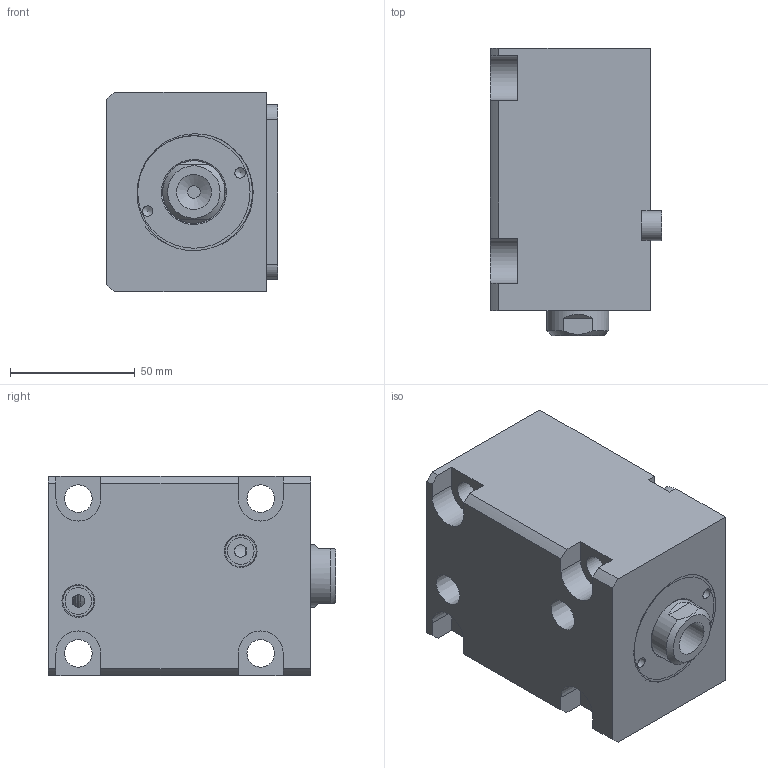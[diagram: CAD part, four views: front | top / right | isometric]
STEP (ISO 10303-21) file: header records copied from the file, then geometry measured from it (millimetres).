
FILE_DESCRIPTION(/* description */ (''),/* implementation_level */ '2;1');
FILE_NAME(/* name */ 'CHTB-la40x50n.stp',/* time_stamp */ '2022-04-29T17:26:02+08:00',/* author */ (''),/* organization */ (''),/* preprocessor_version */ 'ST-DEVELOPER v16.7',/* originating_system */ 'SIEMENS PLM Software NX 12.0',/* authorisation */ '');
FILE_SCHEMA (('AUTOMOTIVE_DESIGN { 1 0 10303 214 3 1 1 1 }'));
Length unit declared in the file: millimetre
Products named in the file (1): CHTB-la40x50n
Bounding box: 68.5 x 115 x 80 mm (x, y, z)
Volume: 460819.9 mm3; surface area: 89608.7 mm2
Topology: 4 solids, 4 shells, 440 faces, 1187 edges, 793 vertices
Faces by surface type: plane 290, extrusion 88, cylinder 39, torus 10, cone 7, bspline 6
Full cylindrical faces by diameter (mm): 4.2 x2, 5 x3, 10.7 x2, 11 x4, 14 x1, 25 x2, 29 x1, 34 x2, 40 x4, 45 x1
Entity records: 19641 total; most frequent: CARTESIAN_POINT 6777, ORIENTED_EDGE 2262, DIRECTION 1787, EDGE_CURVE 1131, VECTOR 911, LINE 823, VERTEX_POINT 780, EDGE_LOOP 533
